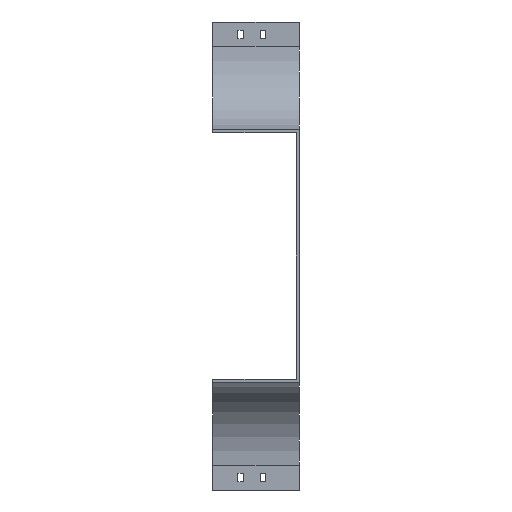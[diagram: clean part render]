
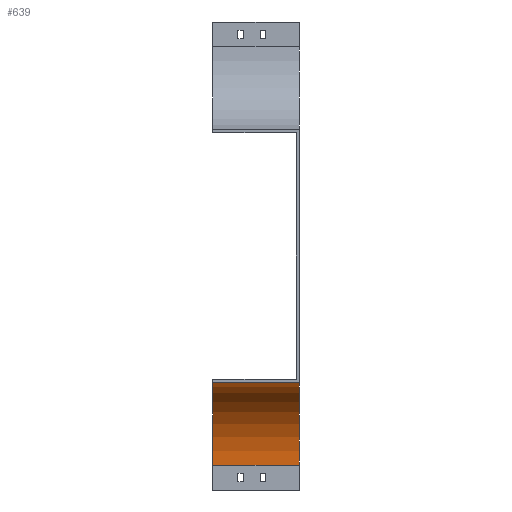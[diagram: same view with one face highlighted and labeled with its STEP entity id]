
A CAD part, left-side view. The second image highlights one B-rep face of the part: STEP entity #639.
In plain terms, the highlighted cylindrical face has radius 100 mm (diameter 200 mm), a partial arc.
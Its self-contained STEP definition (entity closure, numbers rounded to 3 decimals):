
#108 = AXIS2_PLACEMENT_3D ( 'NONE', #197, #1086, #1991 ) ;
#155 = ORIENTED_EDGE ( 'NONE', *, *, #217, .F. ) ;
#197 = CARTESIAN_POINT ( 'NONE',  ( -504., 104., -504. ) ) ;
#217 = EDGE_CURVE ( 'NONE', #2487, #1900, #1387, .T. ) ;
#493 = CARTESIAN_POINT ( 'NONE',  ( -504., 104., -404. ) ) ;
#544 = DIRECTION ( 'NONE',  ( 0., 0., -1. ) ) ;
#639 = ADVANCED_FACE ( 'NONE', ( #3837 ), #1434, .F. ) ;
#653 = CARTESIAN_POINT ( 'NONE',  ( -504., 0., -404. ) ) ;
#726 = CIRCLE ( 'NONE', #108, 100. ) ;
#847 = CARTESIAN_POINT ( 'NONE',  ( -504., 104., -504. ) ) ;
#889 = AXIS2_PLACEMENT_3D ( 'NONE', #847, #1137, #2032 ) ;
#924 = ORIENTED_EDGE ( 'NONE', *, *, #2260, .F. ) ;
#958 = VERTEX_POINT ( 'NONE', #1515 ) ;
#1086 = DIRECTION ( 'NONE',  ( 0., -1., 0. ) ) ;
#1137 = DIRECTION ( 'NONE',  ( 0., -1., 0. ) ) ;
#1387 = LINE ( 'NONE', #493, #2632 ) ;
#1420 = CARTESIAN_POINT ( 'NONE',  ( -404., 104., -504. ) ) ;
#1434 = CYLINDRICAL_SURFACE ( 'NONE', #889, 100. ) ;
#1494 = CIRCLE ( 'NONE', #2955, 100. ) ;
#1515 = CARTESIAN_POINT ( 'NONE',  ( -404., 104., -504. ) ) ;
#1766 = CARTESIAN_POINT ( 'NONE',  ( -504., 104., -404. ) ) ;
#1805 = EDGE_CURVE ( 'NONE', #3031, #1900, #1494, .T. ) ;
#1900 = VERTEX_POINT ( 'NONE', #653 ) ;
#1969 = CARTESIAN_POINT ( 'NONE',  ( -504., 0., -504. ) ) ;
#1991 = DIRECTION ( 'NONE',  ( 0., 0., -1. ) ) ;
#2032 = DIRECTION ( 'NONE',  ( 0., 0., -1. ) ) ;
#2143 = ORIENTED_EDGE ( 'NONE', *, *, #1805, .T. ) ;
#2236 = EDGE_LOOP ( 'NONE', ( #2143, #155, #924, #3146 ) ) ;
#2260 = EDGE_CURVE ( 'NONE', #958, #2487, #726, .T. ) ;
#2487 = VERTEX_POINT ( 'NONE', #1766 ) ;
#2510 = VECTOR ( 'NONE', #2984, 1000. ) ;
#2582 = DIRECTION ( 'NONE',  ( 0., -1., 0. ) ) ;
#2632 = VECTOR ( 'NONE', #2582, 1000. ) ;
#2813 = CARTESIAN_POINT ( 'NONE',  ( -404., 0., -504. ) ) ;
#2905 = LINE ( 'NONE', #1420, #2510 ) ;
#2955 = AXIS2_PLACEMENT_3D ( 'NONE', #1969, #3162, #544 ) ;
#2984 = DIRECTION ( 'NONE',  ( 0., -1., 0. ) ) ;
#3031 = VERTEX_POINT ( 'NONE', #2813 ) ;
#3146 = ORIENTED_EDGE ( 'NONE', *, *, #3570, .T. ) ;
#3162 = DIRECTION ( 'NONE',  ( 0., -1., 0. ) ) ;
#3570 = EDGE_CURVE ( 'NONE', #958, #3031, #2905, .T. ) ;
#3837 = FACE_OUTER_BOUND ( 'NONE', #2236, .T. ) ;
